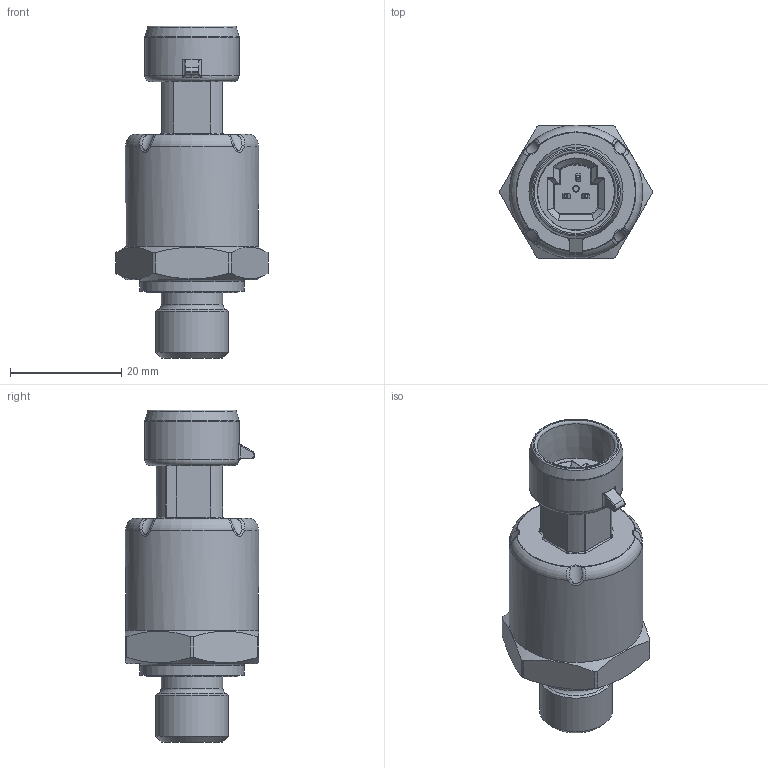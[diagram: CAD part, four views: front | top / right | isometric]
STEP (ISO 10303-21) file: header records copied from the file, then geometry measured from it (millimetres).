
FILE_DESCRIPTION(/* description */ (''),/* implementation_level */ '2;1');
FILE_NAME(/* name */ '560.xxxxB4x000.stp',/* time_stamp */ '2024-06-05T15:36:29+02:00',/* author */ ('uch10269'),/* organization */ (''),/* preprocessor_version */ 'ST-DEVELOPER v19.2',/* originating_system */ 'Autodesk Inventor 2023',/* authorisation */ '');
FILE_SCHEMA (('AUTOMOTIVE_DESIGN { 1 0 10303 214 3 1 1 }'));
Length unit declared in the file: millimetre
Products named in the file (1): Part6
Bounding box: 27.4 x 24 x 59.78 mm (x, y, z)
Volume: 15268.5 mm3; surface area: 6059.6 mm2
Topology: 2 solids, 2 shells, 335 faces, 819 edges, 495 vertices
Faces by surface type: bspline 101, cylinder 95, plane 83, torus 29, cone 18, sphere 9
Full cylindrical faces by diameter (mm): 4.2 x1, 11.1 x1, 11.6 x1, 13.156 x1, 16.5 x1, 16.65 x1, 16.95 x1, 18.8 x1, 24 x1
Entity records: 12172 total; most frequent: CARTESIAN_POINT 4525, ORIENTED_EDGE 1626, DIRECTION 1579, EDGE_CURVE 813, AXIS2_PLACEMENT_3D 664, VERTEX_POINT 495, EDGE_LOOP 350, FACE_OUTER_BOUND 335
